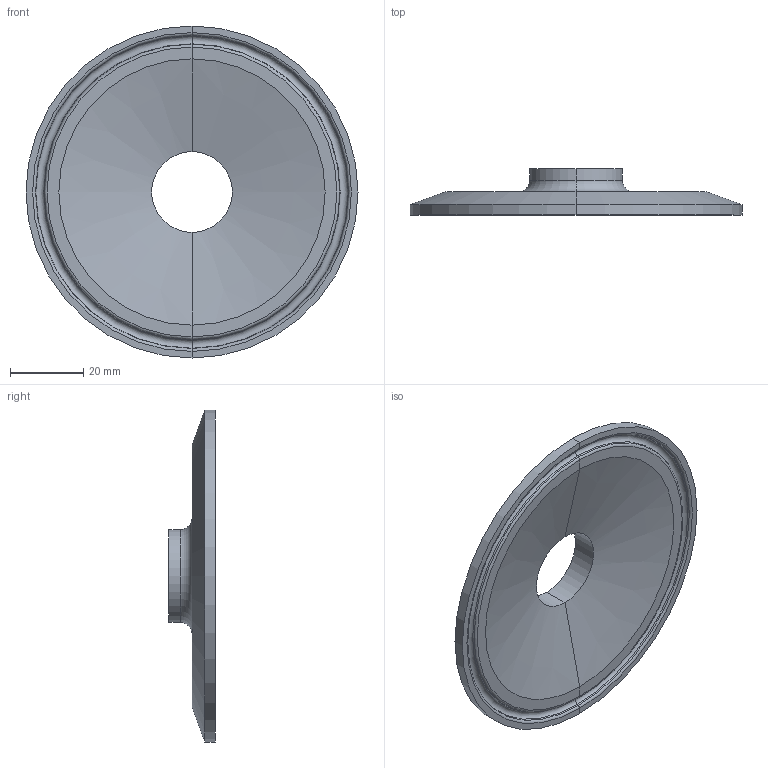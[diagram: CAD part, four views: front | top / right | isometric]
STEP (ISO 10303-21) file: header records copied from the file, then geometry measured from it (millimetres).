
FILE_DESCRIPTION (( 'STEP AP203' ), '1' );
FILE_NAME ('EG2CS31D3.0X1.0.STEP', '2018-04-30T14:24:14', ( 'vneprd' ), ( 'Microsoft' ), 'SwSTEP 2.0', 'SolidWorks 2014', '' );
FILE_SCHEMA (( 'CONFIG_CONTROL_DESIGN' ));
Length unit declared in the file: inch
Products named in the file (1): EG2CS31D3.0X1.0
Bounding box: 90.91 x 12.7 x 90.91 mm (x, y, z)
Volume: 25504.2 mm3; surface area: 14562.2 mm2
Topology: 1 solids, 1 shells, 28 faces, 56 edges, 30 vertices
Faces by surface type: cone 12, torus 8, cylinder 6, plane 2
Entity records: 805 total; most frequent: DIRECTION 152, CARTESIAN_POINT 115, ORIENTED_EDGE 112, AXIS2_PLACEMENT_3D 67, EDGE_CURVE 56, CIRCLE 38, VERTEX_POINT 30, EDGE_LOOP 30
